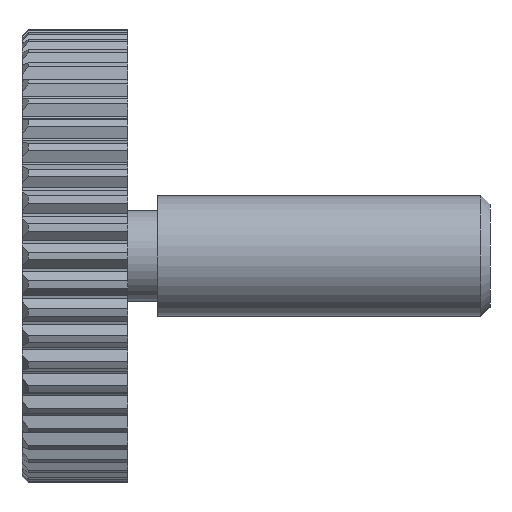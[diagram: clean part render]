
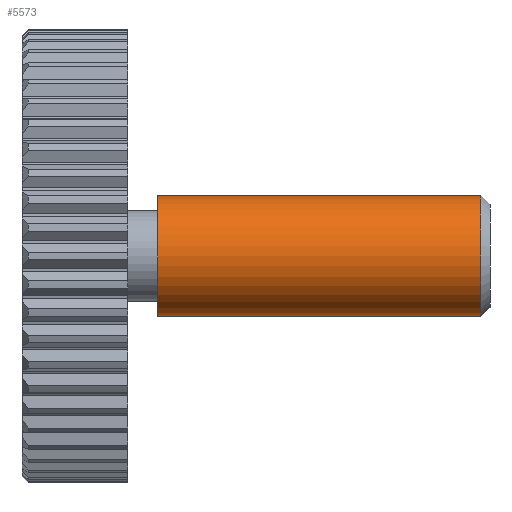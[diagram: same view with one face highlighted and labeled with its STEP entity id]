
A CAD part, left-side view. The second image highlights one B-rep face of the part: STEP entity #5573.
In plain terms, the highlighted cylindrical face has radius 2 mm (diameter 4 mm), a partial arc.
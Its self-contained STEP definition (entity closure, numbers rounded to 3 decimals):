
#167 = VECTOR ( 'NONE', #6254, 1000. ) ;
#185 = DIRECTION ( 'NONE',  ( 0., 1., 0. ) ) ;
#198 = ORIENTED_EDGE ( 'NONE', *, *, #1316, .F. ) ;
#270 = DIRECTION ( 'NONE',  ( 0., 1., 0. ) ) ;
#450 = ORIENTED_EDGE ( 'NONE', *, *, #7731, .T. ) ;
#468 = CARTESIAN_POINT ( 'NONE',  ( 0., -1., 0. ) ) ;
#1054 = CIRCLE ( 'NONE', #7498, 2. ) ;
#1087 = DIRECTION ( 'NONE',  ( 0., 0., 1. ) ) ;
#1187 = CARTESIAN_POINT ( 'NONE',  ( 0., -12., -2. ) ) ;
#1201 = CARTESIAN_POINT ( 'NONE',  ( 0., -11.7, -2. ) ) ;
#1316 = EDGE_CURVE ( 'NONE', #6141, #3570, #8389, .T. ) ;
#1670 = AXIS2_PLACEMENT_3D ( 'NONE', #6063, #270, #1087 ) ;
#2463 = CYLINDRICAL_SURFACE ( 'NONE', #1670, 2. ) ;
#2504 = EDGE_LOOP ( 'NONE', ( #198, #5159, #450, #6153 ) ) ;
#3556 = VECTOR ( 'NONE', #185, 1000. ) ;
#3570 = VERTEX_POINT ( 'NONE', #8124 ) ;
#3678 = CARTESIAN_POINT ( 'NONE',  ( 0., -11.7, 0. ) ) ;
#3921 = CARTESIAN_POINT ( 'NONE',  ( 0., -1., 2. ) ) ;
#4249 = DIRECTION ( 'NONE',  ( 0., -1., 0. ) ) ;
#4488 = LINE ( 'NONE', #7342, #3556 ) ;
#4638 = VERTEX_POINT ( 'NONE', #8343 ) ;
#5028 = DIRECTION ( 'NONE',  ( 0., 0., -1. ) ) ;
#5159 = ORIENTED_EDGE ( 'NONE', *, *, #5738, .T. ) ;
#5172 = EDGE_CURVE ( 'NONE', #7378, #3570, #1054, .T. ) ;
#5503 = DIRECTION ( 'NONE',  ( 0., 0., -1. ) ) ;
#5573 = ADVANCED_FACE ( 'NONE', ( #7433 ), #2463, .T. ) ;
#5738 = EDGE_CURVE ( 'NONE', #6141, #4638, #9010, .T. ) ;
#6063 = CARTESIAN_POINT ( 'NONE',  ( 0., -12., 0. ) ) ;
#6140 = AXIS2_PLACEMENT_3D ( 'NONE', #3678, #9314, #5028 ) ;
#6141 = VERTEX_POINT ( 'NONE', #1201 ) ;
#6153 = ORIENTED_EDGE ( 'NONE', *, *, #5172, .T. ) ;
#6254 = DIRECTION ( 'NONE',  ( 0., 1., 0. ) ) ;
#7342 = CARTESIAN_POINT ( 'NONE',  ( 0., -12., 2. ) ) ;
#7378 = VERTEX_POINT ( 'NONE', #3921 ) ;
#7433 = FACE_OUTER_BOUND ( 'NONE', #2504, .T. ) ;
#7498 = AXIS2_PLACEMENT_3D ( 'NONE', #468, #4249, #5503 ) ;
#7731 = EDGE_CURVE ( 'NONE', #4638, #7378, #4488, .T. ) ;
#8124 = CARTESIAN_POINT ( 'NONE',  ( 0., -1., -2. ) ) ;
#8343 = CARTESIAN_POINT ( 'NONE',  ( 0., -11.7, 2. ) ) ;
#8389 = LINE ( 'NONE', #1187, #167 ) ;
#9010 = CIRCLE ( 'NONE', #6140, 2. ) ;
#9314 = DIRECTION ( 'NONE',  ( 0., 1., 0. ) ) ;
